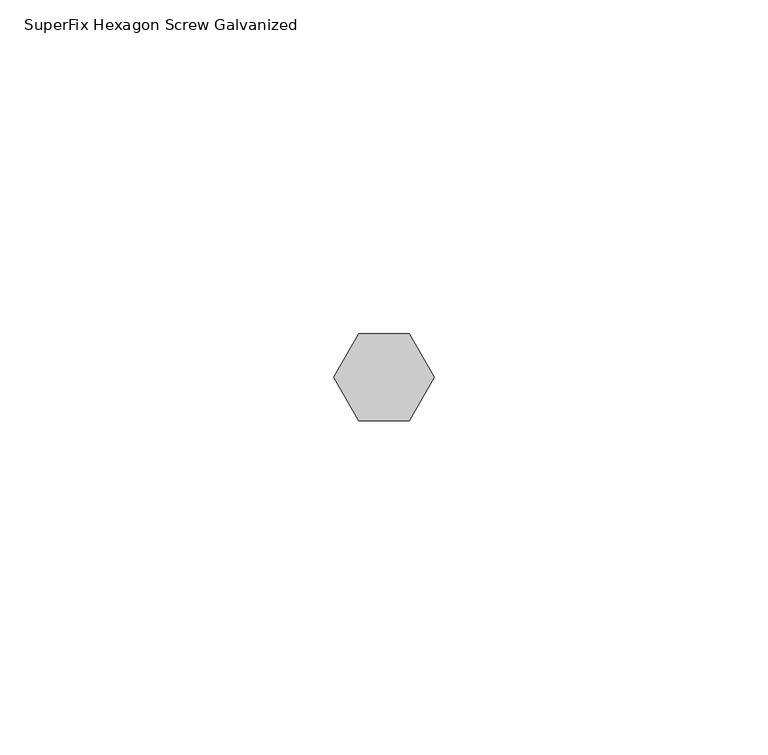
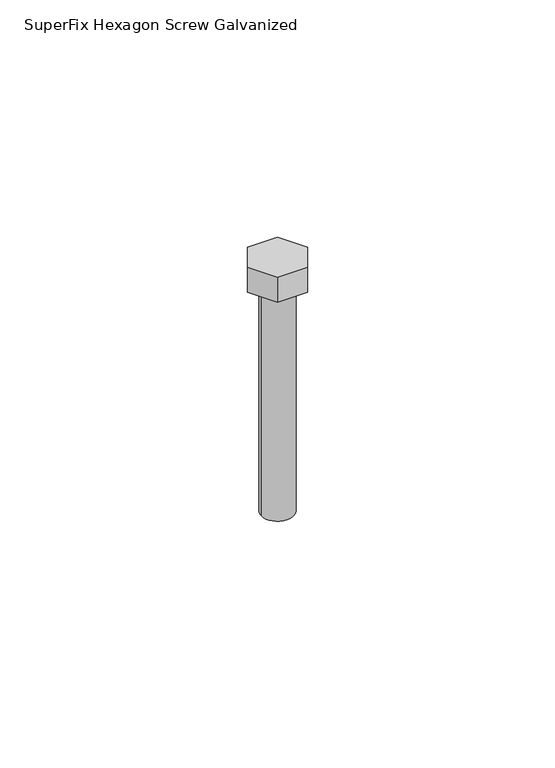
"""IFC4 building model written with IfcOpenShell, lengths in millimetres: valve geometry, SuperFix Hexagon Screw Galvanized : Hexagon Screw Galvanized Extra  M8 × 60."""

from ifc_helpers import new_model, si_unit, frame, origin, origin_with_axes, place, context, project, spatial, circle_curve, source, transform, mapped, element, save
from ifc_brep_helpers import plane_surface, cylinder_surface, advanced_brep


def superfix_hexagon_screw_galvanized_3ef5af78(model_context):
    return source(origin(), model_context, "Body", "AdvancedBrep", [
        advanced_brep(
        [(-7.5055535, 0.0, 6.5), (-3.7527767, -6.5, 6.5), (3.7527767, -6.5, 6.5), (7.5055535, 0.0, 6.5), (3.7527767, 6.5, 6.5), (-3.7527767, 6.5, 6.5), (-7.5055535, 0.0, 0.0), (-3.7527767, 6.5, 0.0), (3.7527767, 6.5, 0.0), (7.5055535, 0.0, 0.0), (3.7527767, -6.5, 0.0), (-3.7527767, -6.5, 0.0), (-4.0, 0.0, 0.0), (4.0, 0.0, 0.0), (-4.0, 0.0, -60.0), (4.0, 0.0, -60.0)],
        [
            (0, 1),
            (1, 2),
            (2, 3),
            (3, 4),
            (4, 5),
            (5, 0),
            (6, 7),
            (7, 8),
            (8, 9),
            (9, 10),
            (10, 11),
            (11, 6),
            (12, 13, circle_curve(origin_with_axes(), 4.0)),
            (13, 12, circle_curve(origin_with_axes(), 4.0)),
            (0, 6),
            (11, 1),
            (10, 2),
            (9, 3),
            (8, 4),
            (7, 5),
            (14, 15, circle_curve(frame((0.0, 0.0, -60.0), z_axis=(0.0, 0.0, -1.0), x_axis=(1.0, 0.0, 0.0)), 4.0)),
            (15, 14, circle_curve(frame((0.0, 0.0, -60.0), z_axis=(0.0, 0.0, -1.0), x_axis=(1.0, 0.0, 0.0)), 4.0)),
            (15, 13),
            (12, 14),
        ],
        [
            plane_surface(frame((-7.5055535, 0.0, 6.5), z_axis=(0.0, 0.0, 1.0), x_axis=(0.49999999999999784, -0.8660254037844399, 0.0))),
            plane_surface(frame((-7.5055535, 0.0, 0.0), z_axis=(0.0, 0.0, -1.0), x_axis=(-0.49999999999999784, 0.8660254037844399, 0.0))),
            plane_surface(frame((-7.5055535, 0.0, 6.5), z_axis=(-0.8660254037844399, -0.49999999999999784, 0.0), x_axis=(0.0, 0.0, -1.0))),
            plane_surface(frame((-3.7527767, -6.5, 6.5), z_axis=(0.0, -1.0, 0.0), x_axis=(0.0, 0.0, -1.0))),
            plane_surface(frame((3.7527767, -6.5, 6.5), z_axis=(0.8660254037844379, -0.5000000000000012, 0.0), x_axis=(0.0, 0.0, -1.0))),
            plane_surface(frame((7.5055535, 0.0, 6.5), z_axis=(0.8660254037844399, 0.4999999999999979, 0.0), x_axis=(0.0, 0.0, -1.0))),
            plane_surface(frame((3.7527767, 6.5, 6.5), z_axis=(0.0, 1.0, 0.0), x_axis=(0.0, 0.0, -1.0))),
            plane_surface(frame((-3.7527767, 6.5, 6.5), z_axis=(-0.866025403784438, 0.5000000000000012, 0.0), x_axis=(0.0, 0.0, -1.0))),
            plane_surface(frame((4.0, 0.0, -60.0), z_axis=(0.0, 0.0, -1.0), x_axis=(0.0, -1.0, 0.0))),
            cylinder_surface(frame((0.0, 0.0, -60.0), z_axis=(0.0, 0.0, 1.0), x_axis=(1.0, 0.0, 0.0)), 4.0),
        ],
        [
            (0, [[1, 2, 3, 4, 5, 6]]),
            (1, [[7, 8, 9, 10, 11, 12], [13, 14]]),
            (2, [[-1, 15, -12, 16]]),
            (3, [[-2, -16, -11, 17]]),
            (4, [[-3, -17, -10, 18]]),
            (5, [[-4, -18, -9, 19]]),
            (6, [[-5, -19, -8, 20]]),
            (7, [[-6, -20, -7, -15]]),
            (8, [[21, 22]]),
            (9, [[-22, 23, -13, 24]]),
            (9, [[-21, -24, -14, -23]]),
        ],
    ),
    ])


if __name__ == "__main__":
    model = new_model("IFC4")
    model_context = context("Model", 3, world=origin())
    ifc_project = project(units=[si_unit("LENGTHUNIT", "METRE", prefix="MILLI")], contexts=[model_context])
    site = spatial("IfcSite", under=ifc_project)
    building = spatial("IfcBuilding", under=site)
    placement = place(None, origin())
    superfix_hexagon_screw_galvanized_shape = superfix_hexagon_screw_galvanized_3ef5af78(model_context)
    element("IfcValve", 1, ObjectType="SuperFix Hexagon Screw Galvanized : Hexagon Screw Galvanized Extra  M8 × 60", at=placement, inside=building, context=model_context, shape_type="MappedRepresentation", body=[
        mapped(superfix_hexagon_screw_galvanized_shape, transform((0.0, 0.0, 0.0), x_axis=(1.0, 0.0, 0.0), y_axis=(0.0, 1.0, 0.0), z_axis=(0.0, 0.0, 1.0))),
    ])
    save(model, "model.ifc")
